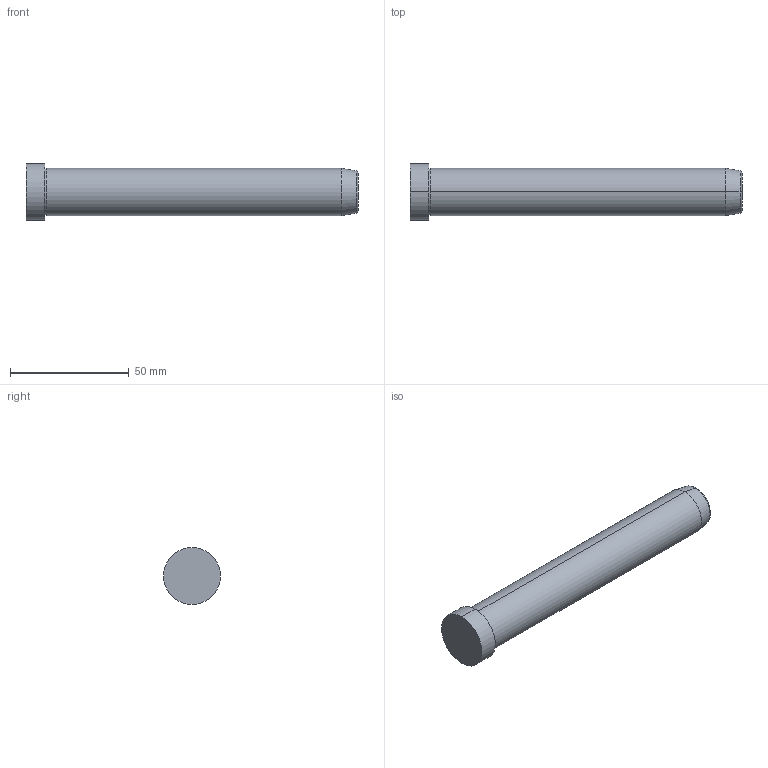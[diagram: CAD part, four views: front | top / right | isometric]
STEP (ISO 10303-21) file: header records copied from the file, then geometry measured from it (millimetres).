
FILE_DESCRIPTION( ( 'STEP AP203' ), '1' );
FILE_NAME( 'D:/Delta 3 D/D01D/20/D01D - 20x140.step', '2003-01-02T23:23:04', ( ' ' ), ( ' ' ), 'XStep 1.0', ' ', ' ' );
FILE_SCHEMA( ( 'CONFIG_CONTROL_DESIGN' ) );
Length unit declared in the file: metre
Products named in the file (1): 1
Bounding box: 140 x 24 x 24 mm (x, y, z)
Volume: 44812.5 mm3; surface area: 9722.6 mm2
Topology: 1 solids, 1 shells, 14 faces, 26 edges, 16 vertices
Faces by surface type: revolution 8, bspline 6
Entity records: 437 total; most frequent: CARTESIAN_POINT 121, ORIENTED_EDGE 52, DIRECTION 50, EDGE_CURVE 26, AXIS2_PLACEMENT_3D 17, EDGE_LOOP 16, VERTEX_POINT 16, CIRCLE 16
